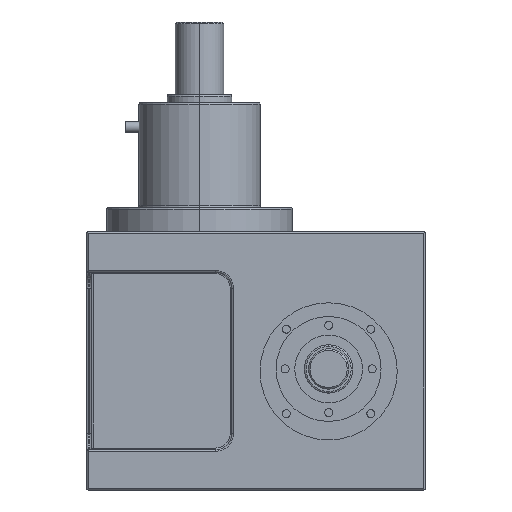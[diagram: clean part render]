
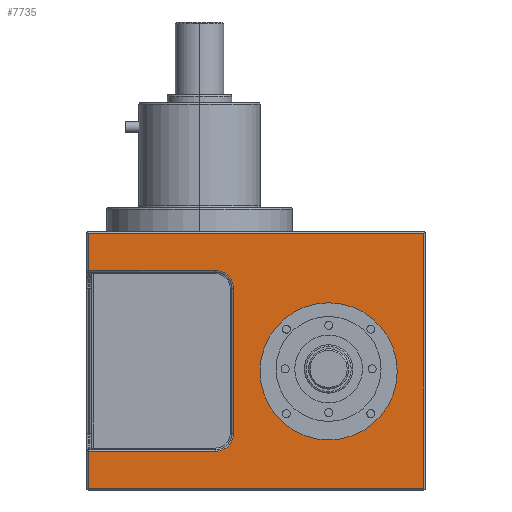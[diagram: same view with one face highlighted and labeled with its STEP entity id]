
A CAD part, left-side view. The second image highlights one B-rep face of the part: STEP entity #7735.
In plain terms, the highlighted planar face has unit normal (-1, 0, 0).
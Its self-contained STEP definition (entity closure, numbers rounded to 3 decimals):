
#721=CARTESIAN_POINT('',(-75.5,-45.,-86.5));
#722=DIRECTION('',(-1.,0.,0.));
#723=DIRECTION('',(0.,0.,1.));
#724=AXIS2_PLACEMENT_3D('',#721,#722,#723);
#726=CARTESIAN_POINT('',(-75.5,-45.,-86.5));
#727=DIRECTION('',(-1.,0.,0.));
#728=DIRECTION('',(0.,0.,-1.));
#729=AXIS2_PLACEMENT_3D('',#726,#727,#728);
#731=DIRECTION('',(0.,1.,0.));
#732=VECTOR('',#731,79.);
#733=CARTESIAN_POINT('',(-75.5,25.,-136.));
#734=LINE('',#733,#732);
#735=CARTESIAN_POINT('',(-75.5,25.,-125.));
#736=DIRECTION('',(1.,0.,0.));
#737=DIRECTION('',(0.,-1.,0.));
#738=AXIS2_PLACEMENT_3D('',#735,#736,#737);
#740=DIRECTION('',(0.,0.,-1.));
#741=VECTOR('',#740,90.);
#742=CARTESIAN_POINT('',(-75.5,14.,-35.));
#743=LINE('',#742,#741);
#744=CARTESIAN_POINT('',(-75.5,25.,-35.));
#745=DIRECTION('',(1.,0.,0.));
#746=DIRECTION('',(0.,0.,1.));
#747=AXIS2_PLACEMENT_3D('',#744,#745,#746);
#749=DIRECTION('',(0.,-1.,0.));
#750=VECTOR('',#749,79.);
#751=CARTESIAN_POINT('',(-75.5,104.,-24.));
#752=LINE('',#751,#750);
#753=DIRECTION('',(0.,0.,-1.));
#754=VECTOR('',#753,23.);
#755=CARTESIAN_POINT('',(-75.5,104.,-1.));
#756=LINE('',#755,#754);
#757=DIRECTION('',(0.,-1.,0.));
#758=VECTOR('',#757,208.);
#759=CARTESIAN_POINT('',(-75.5,104.,-1.));
#760=LINE('',#759,#758);
#761=DIRECTION('',(0.,0.,-1.));
#762=VECTOR('',#761,158.);
#763=CARTESIAN_POINT('',(-75.5,-104.,-1.));
#764=LINE('',#763,#762);
#765=DIRECTION('',(0.,1.,0.));
#766=VECTOR('',#765,208.);
#767=CARTESIAN_POINT('',(-75.5,-104.,-159.));
#768=LINE('',#767,#766);
#769=DIRECTION('',(0.,0.,-1.));
#770=VECTOR('',#769,23.);
#771=CARTESIAN_POINT('',(-75.5,104.,-136.));
#772=LINE('',#771,#770);
#1182=CARTESIAN_POINT('',(-75.5,104.,-136.));
#1203=CARTESIAN_POINT('',(-75.5,104.,-24.));
#5345=CARTESIAN_POINT('',(-75.5,-104.,-159.));
#5346=CARTESIAN_POINT('',(-75.5,104.,-159.));
#5347=VERTEX_POINT('',#5345);
#5348=VERTEX_POINT('',#5346);
#5353=CARTESIAN_POINT('',(-75.5,-104.,-1.));
#5354=VERTEX_POINT('',#5353);
#5359=CARTESIAN_POINT('',(-75.5,104.,-1.));
#5360=VERTEX_POINT('',#5359);
#5509=CARTESIAN_POINT('',(-75.5,-45.,-44.));
#5510=CARTESIAN_POINT('',(-75.5,-45.,-129.));
#5511=VERTEX_POINT('',#5509);
#5512=VERTEX_POINT('',#5510);
#6645=VERTEX_POINT('',#1182);
#6648=CARTESIAN_POINT('',(-75.5,25.,-136.));
#6649=VERTEX_POINT('',#6648);
#6650=CARTESIAN_POINT('',(-75.5,14.,-125.));
#6651=VERTEX_POINT('',#6650);
#6654=CARTESIAN_POINT('',(-75.5,14.,-35.));
#6655=VERTEX_POINT('',#6654);
#6658=CARTESIAN_POINT('',(-75.5,25.,-24.));
#6659=VERTEX_POINT('',#6658);
#6662=VERTEX_POINT('',#1203);
#7703=CARTESIAN_POINT('',(-75.5,105.,0.));
#7704=DIRECTION('',(-1.,0.,0.));
#7705=DIRECTION('',(0.,-1.,0.));
#7706=AXIS2_PLACEMENT_3D('',#7703,#7704,#7705);
#7707=PLANE('',#7706);
#7709=ORIENTED_EDGE('',*,*,#7708,.F.);
#7711=ORIENTED_EDGE('',*,*,#7710,.F.);
#7713=ORIENTED_EDGE('',*,*,#7712,.F.);
#7715=ORIENTED_EDGE('',*,*,#7714,.F.);
#7717=ORIENTED_EDGE('',*,*,#7716,.F.);
#7719=ORIENTED_EDGE('',*,*,#7718,.F.);
#7720=ORIENTED_EDGE('',*,*,#7690,.T.);
#7722=ORIENTED_EDGE('',*,*,#7721,.T.);
#7724=ORIENTED_EDGE('',*,*,#7723,.T.);
#7726=ORIENTED_EDGE('',*,*,#7725,.F.);
#7727=EDGE_LOOP('',(#7709,#7711,#7713,#7715,#7717,#7719,#7720,#7722,#7724,
#7726));
#7728=FACE_OUTER_BOUND('',#7727,.F.);
#7730=ORIENTED_EDGE('',*,*,#7729,.T.);
#7732=ORIENTED_EDGE('',*,*,#7731,.T.);
#7733=EDGE_LOOP('',(#7730,#7732));
#7734=FACE_BOUND('',#7733,.F.);
#725=CIRCLE('',#724,42.5);
#730=CIRCLE('',#729,42.5);
#739=CIRCLE('',#738,11.);
#748=CIRCLE('',#747,11.);
#7690=EDGE_CURVE('',#5360,#5354,#760,.T.);
#7708=EDGE_CURVE('',#6649,#6645,#734,.T.);
#7710=EDGE_CURVE('',#6651,#6649,#739,.T.);
#7712=EDGE_CURVE('',#6655,#6651,#743,.T.);
#7714=EDGE_CURVE('',#6659,#6655,#748,.T.);
#7716=EDGE_CURVE('',#6662,#6659,#752,.T.);
#7718=EDGE_CURVE('',#5360,#6662,#756,.T.);
#7721=EDGE_CURVE('',#5354,#5347,#764,.T.);
#7723=EDGE_CURVE('',#5347,#5348,#768,.T.);
#7725=EDGE_CURVE('',#6645,#5348,#772,.T.);
#7729=EDGE_CURVE('',#5511,#5512,#725,.T.);
#7731=EDGE_CURVE('',#5512,#5511,#730,.T.);
#7735=ADVANCED_FACE('',(#7728,#7734),#7707,.T.);
